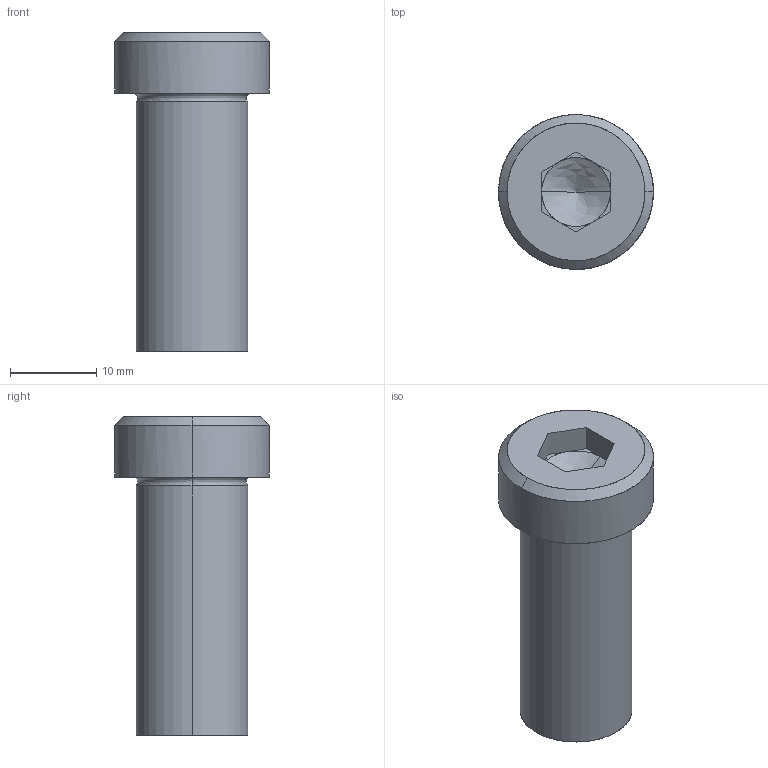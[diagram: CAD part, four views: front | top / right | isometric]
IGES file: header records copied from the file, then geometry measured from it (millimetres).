
Global section: file name: E:\UnigraphicsGraphicData\MISUMI_PRESS-PARTS\IGES\3d_sbtcn13-30_05146_r00.igs; native system: NX V5.0; preprocessor: UGS NX IGES V5.0; author: MISUMI; date: 20110105.162454; units: millimetre
Bounding box: 18 x 18 x 37 mm (x, y, z)
Surface area: 2612.6 mm2 (no closed solid volume)
Topology: 0 solids, 0 shells, 34 faces, 186 edges, 182 vertices
Faces by surface type: bspline 34
